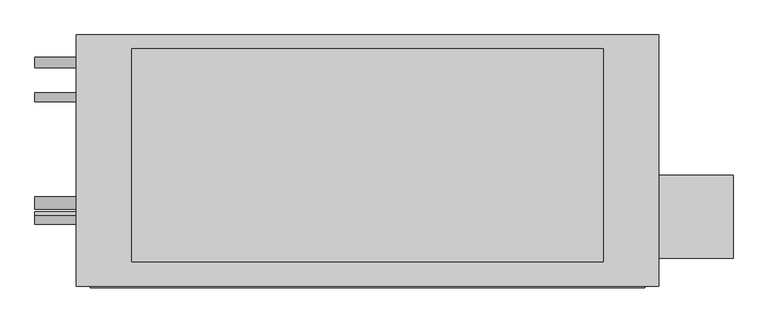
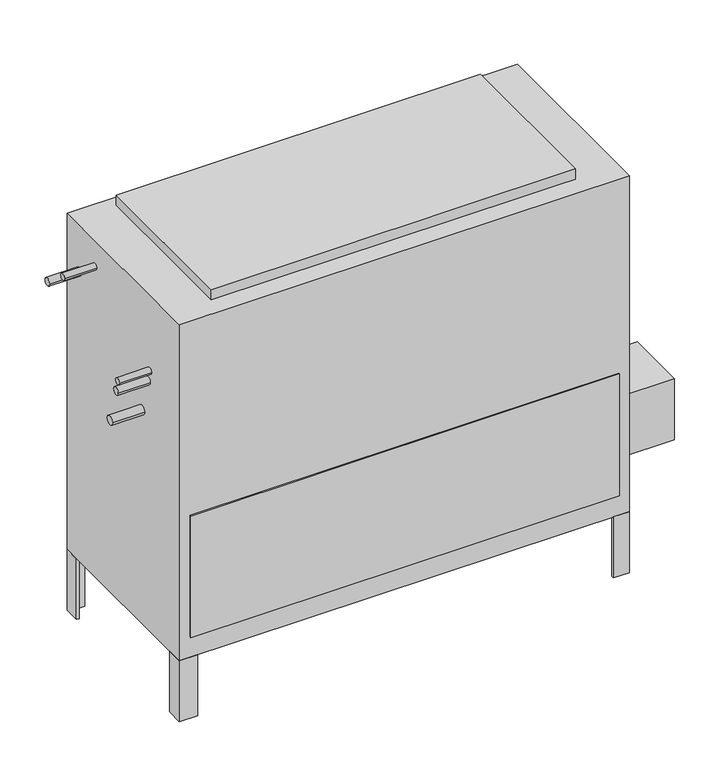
"""IFC4 building model written with IfcOpenShell, lengths in millimetres: proxy geometry, Concealed_High_Capacity_Vertical_Fan_Coil_Unit_-_42DDA_-_CARRIER_-_4-Pipe_LH_2022 : Size 14 - 277v/60Hz/1Ph - 4/2 Coil."""

from ifc_helpers import new_model, si_unit, point, frame, frame_2d, origin, origin_with_axes, place, context, project, spatial, polyline, circle_curve, trimmed, segment, composite_curve, outline, extrude, source, transform, mapped, element, save


def mechanical_equipment_6a2da01b(model_context):
    return source(origin(), model_context, "Body", "SweptSolid", [
        extrude(outline(polyline([(822.325, -265.1125), (822.325, -417.5125), (685.8, -417.5125), (685.8, -265.1125), (822.325, -265.1125)])), frame((0.0, 0.0, 101.6), z_axis=(0.0, 0.0, 1.0), x_axis=(1.0, 0.0, 0.0)), (0.0, 0.0, 1.0), 152.4),
        extrude(outline(polyline([(685.8, -46.0375), (679.45, -46.0375), (679.45, -14.2875), (647.7, -14.2875), (647.7, -7.9375), (685.8, -7.9375), (685.8, -46.0375)])), frame((0.0, 0.0, -152.4), z_axis=(0.0, 0.0, 1.0), x_axis=(1.0, 0.0, 0.0)), (0.0, 0.0, 1.0), 152.4),
        extrude(outline(polyline([(-342.9, -7.9375), (-342.9, -14.2875), (-374.65, -14.2875), (-374.65, -46.0375), (-381.0, -46.0375), (-381.0, -7.9375), (-342.9, -7.9375)])), frame((0.0, 0.0, -152.4), z_axis=(0.0, 0.0, 1.0), x_axis=(1.0, 0.0, 0.0)), (0.0, 0.0, 1.0), 152.4),
        extrude(outline(polyline([(647.7, -468.3125), (647.7, -461.9625), (679.45, -461.9625), (679.45, -430.2125), (685.8, -430.2125), (685.8, -468.3125), (647.7, -468.3125)])), frame((0.0, 0.0, -152.4), z_axis=(0.0, 0.0, 1.0), x_axis=(1.0, 0.0, 0.0)), (0.0, 0.0, 1.0), 152.4),
        extrude(outline(polyline([(-381.0, -428.1199163), (-374.65, -428.1199163), (-374.65, -461.9625), (-337.5318533, -461.9625), (-337.5318533, -468.3125), (-381.0, -468.3125), (-381.0, -428.1199163)])), frame((0.0, 0.0, -152.4), z_axis=(0.0, 0.0, 1.0), x_axis=(1.0, 0.0, 0.0)), (0.0, 0.0, 1.0), 152.4),
        extrude(outline(polyline([(584.2, -33.3375), (584.2, -423.8625), (-279.4, -423.8625), (-279.4, -33.3375), (584.2, -33.3375)])), frame((0.0, 0.0, 841.375), z_axis=(0.0, 0.0, 1.0), x_axis=(1.0, 0.0, 0.0)), (0.0, 0.0, 1.0), 25.4),
        extrude(outline(polyline([(660.4, -471.4875), (-355.6, -471.4875), (-355.6, -468.3125), (660.4, -468.3125), (660.4, -471.4875)])), frame((0.0, 0.0, 50.8), z_axis=(0.0, 0.0, 1.0), x_axis=(1.0, 0.0, 0.0)), (0.0, 0.0, 1.0), 304.8),
        extrude(outline(composite_curve([segment(trimmed(circle_curve(frame_2d((-122.2375, 777.875)), 7.9375), [point((-130.175, 777.875))], [point((-114.3, 777.875))], False, "CARTESIAN"), True, "CONTINUOUS"), segment(trimmed(circle_curve(frame_2d((-122.2375, 777.875)), 7.9375), [point((-114.3, 777.875))], [point((-130.175, 777.875))], False, "CARTESIAN"), True, "CONTINUOUS")], self_intersect=False)), frame((-457.2, 0.0, 0.0), z_axis=(1.0, 0.0, 0.0), x_axis=(0.0, 1.0, 0.0)), (0.0, 0.0, 1.0), 76.2),
        extrude(outline(composite_curve([segment(trimmed(circle_curve(frame_2d((-347.3848135, 653.2230057)), 7.9375), [point((-355.3223135, 653.2230057))], [point((-339.4473135, 653.2230057))], False, "CARTESIAN"), True, "CONTINUOUS"), segment(trimmed(circle_curve(frame_2d((-347.3848135, 653.2230057)), 7.9375), [point((-339.4473135, 653.2230057))], [point((-355.3223135, 653.2230057))], False, "CARTESIAN"), True, "CONTINUOUS")], self_intersect=False)), frame((-457.2, 0.0, 0.0), z_axis=(1.0, 0.0, 0.0), x_axis=(0.0, 1.0, 0.0)), (0.0, 0.0, 1.0), 76.2),
        extrude(outline(composite_curve([segment(trimmed(circle_curve(frame_2d((-58.7375, 727.075)), 9.525), [point((-68.2625, 727.075))], [point((-49.2125, 727.075))], False, "CARTESIAN"), True, "CONTINUOUS"), segment(trimmed(circle_curve(frame_2d((-58.7375, 727.075)), 9.525), [point((-49.2125, 727.075))], [point((-68.2625, 727.075))], False, "CARTESIAN"), True, "CONTINUOUS")], self_intersect=False)), frame((-457.2, 0.0, 0.0), z_axis=(1.0, 0.0, 0.0), x_axis=(0.0, 1.0, 0.0)), (0.0, 0.0, 1.0), 76.2),
        extrude(outline(composite_curve([segment(trimmed(circle_curve(frame_2d((-341.3125, 625.475)), 9.525), [point((-350.8375, 625.475))], [point((-331.7875, 625.475))], False, "CARTESIAN"), True, "CONTINUOUS"), segment(trimmed(circle_curve(frame_2d((-341.3125, 625.475)), 9.525), [point((-331.7875, 625.475))], [point((-350.8375, 625.475))], False, "CARTESIAN"), True, "CONTINUOUS")], self_intersect=False)), frame((-457.2, 0.0, 0.0), z_axis=(1.0, 0.0, 0.0), x_axis=(0.0, 1.0, 0.0)), (0.0, 0.0, 1.0), 76.2),
        extrude(outline(composite_curve([segment(trimmed(circle_curve(frame_2d((-315.9125, 536.575)), 11.1125), [point((-327.025, 536.575))], [point((-304.8, 536.575))], False, "CARTESIAN"), True, "CONTINUOUS"), segment(trimmed(circle_curve(frame_2d((-315.9125, 536.575)), 11.1125), [point((-304.8, 536.575))], [point((-327.025, 536.575))], False, "CARTESIAN"), True, "CONTINUOUS")], self_intersect=False)), frame((-457.2, 0.0, 0.0), z_axis=(1.0, 0.0, 0.0), x_axis=(0.0, 1.0, 0.0)), (0.0, 0.0, 1.0), 76.2),
        extrude(outline(polyline([(685.8, -7.9375), (685.8, -468.3125), (-381.0, -468.3125), (-381.0, -7.9375), (685.8, -7.9375)])), origin_with_axes(), (0.0, 0.0, 1.0), 841.375),
    ])


if __name__ == "__main__":
    model = new_model("IFC4")
    model_context = context("Model", 3, world=origin())
    ifc_project = project(units=[si_unit("LENGTHUNIT", "METRE", prefix="MILLI")], contexts=[model_context])
    site = spatial("IfcSite", under=ifc_project)
    building = spatial("IfcBuilding", under=site)
    placement = place(None, origin())
    mechanical_equipment_shape = mechanical_equipment_6a2da01b(model_context)
    element("IfcBuildingElementProxy", 1, Name="Concealed_High_Capacity_Vertical_Fan_Coil_Unit_-_42DDA_-_CARRIER_-_4-Pipe_LH_2022 : Size 14 - 277v/60Hz/1Ph - 4/2 Coil", ObjectType="Concealed_High_Capacity_Vertical_Fan_Coil_Unit_-_42DDA_-_CARRIER_-_4-Pipe_LH_2022 : Size 14 - 277v/60Hz/1Ph - 4/2 Coil", at=placement, inside=building, context=model_context, shape_type="MappedRepresentation", body=[
        mapped(mechanical_equipment_shape, transform((0.0, 0.0, 0.0), x_axis=(1.0, 0.0, 0.0), y_axis=(0.0, 1.0, 0.0), z_axis=(0.0, 0.0, 1.0))),
    ])
    save(model, "model.ifc")
